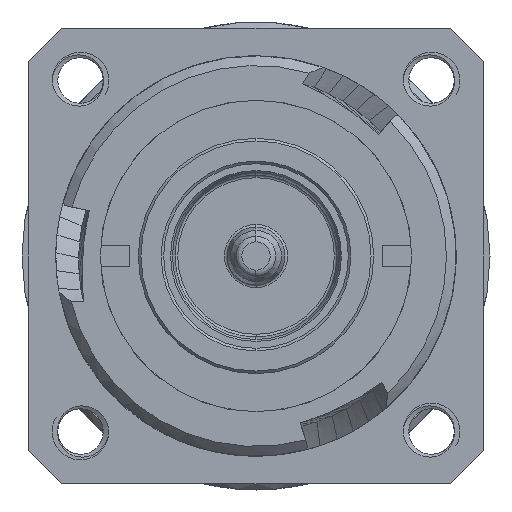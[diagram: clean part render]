
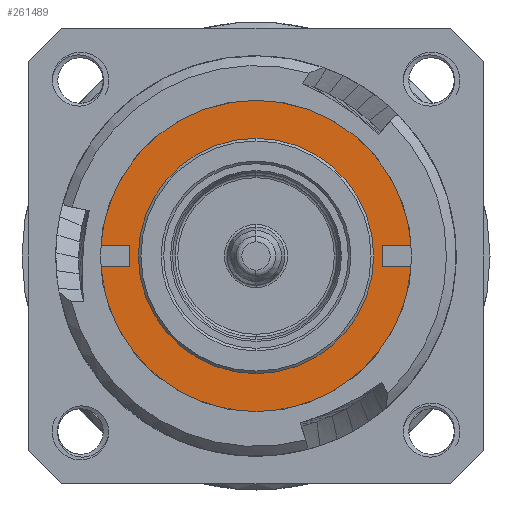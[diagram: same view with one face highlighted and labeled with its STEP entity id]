
A CAD part, left-side view. The second image highlights one B-rep face of the part: STEP entity #261489.
In plain terms, the highlighted planar face has unit normal (-1, 0, 0).
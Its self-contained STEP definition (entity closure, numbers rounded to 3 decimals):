
#75274=CARTESIAN_POINT('',(17.8,0.,0.));
#75275=DIRECTION('',(1.,0.,0.));
#75276=DIRECTION('',(0.,-0.998,0.069));
#75277=AXIS2_PLACEMENT_3D('',#75274,#75275,#75276);
#75279=CARTESIAN_POINT('',(17.8,0.,0.));
#75280=DIRECTION('',(-1.,0.,0.));
#75281=DIRECTION('',(0.,0.,-1.));
#75282=AXIS2_PLACEMENT_3D('',#75279,#75280,#75281);
#75284=CARTESIAN_POINT('',(17.8,0.,0.));
#75285=DIRECTION('',(-1.,0.,0.));
#75286=DIRECTION('',(0.,0.,1.));
#75287=AXIS2_PLACEMENT_3D('',#75284,#75285,#75286);
#75305=CARTESIAN_POINT('',(17.8,0.,0.));
#75306=DIRECTION('',(-1.,0.,0.));
#75307=DIRECTION('',(0.,-0.998,0.069));
#75308=AXIS2_PLACEMENT_3D('',#75305,#75306,#75307);
#79610=CARTESIAN_POINT('',(17.8,11.947,0.825));
#79611=VERTEX_POINT('',#79610);
#79616=CARTESIAN_POINT('',(17.8,-11.947,0.825));
#79617=VERTEX_POINT('',#79616);
#79666=CARTESIAN_POINT('',(17.8,0.,-9.05));
#79667=CARTESIAN_POINT('',(17.8,0.,9.05));
#79668=VERTEX_POINT('',#79666);
#79669=VERTEX_POINT('',#79667);
#261473=CARTESIAN_POINT('',(17.8,0.,0.));
#261474=DIRECTION('',(-1.,0.,0.));
#261475=DIRECTION('',(0.,1.,0.));
#261476=AXIS2_PLACEMENT_3D('',#261473,#261474,#261475);
#261477=PLANE('310',#261476);
#261479=ORIENTED_EDGE('8731',*,*,#261478,.F.);
#261480=ORIENTED_EDGE('8740',*,*,#261440,.T.);
#261481=EDGE_LOOP('310',(#261479,#261480));
#261482=FACE_OUTER_BOUND('310',#261481,.F.);
#261484=ORIENTED_EDGE('8869',*,*,#261483,.T.);
#261486=ORIENTED_EDGE('8870',*,*,#261485,.T.);
#261487=EDGE_LOOP('310',(#261484,#261486));
#261488=FACE_BOUND('310',#261487,.F.);
#75278=CIRCLE('8740',#75277,11.975);
#75283=CIRCLE('8869',#75282,9.05);
#75288=CIRCLE('8870',#75287,9.05);
#75309=CIRCLE('8731',#75308,11.975);
#261440=EDGE_CURVE('8740',#79617,#79611,#75278,.T.);
#261478=EDGE_CURVE('8731',#79617,#79611,#75309,.T.);
#261483=EDGE_CURVE('8869',#79668,#79669,#75283,.T.);
#261485=EDGE_CURVE('8870',#79669,#79668,#75288,.T.);
#261489=ADVANCED_FACE('310',(#261482,#261488),#261477,.T.);
